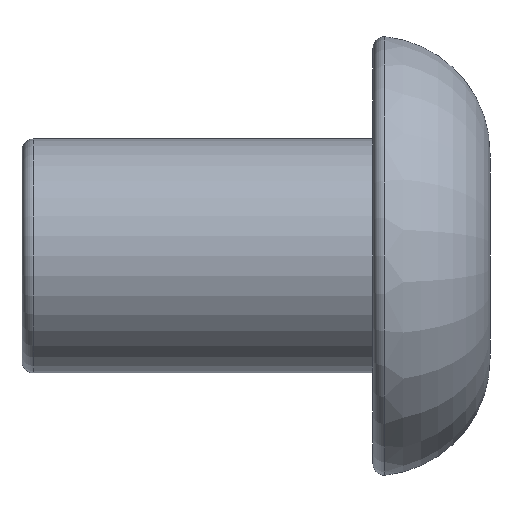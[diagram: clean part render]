
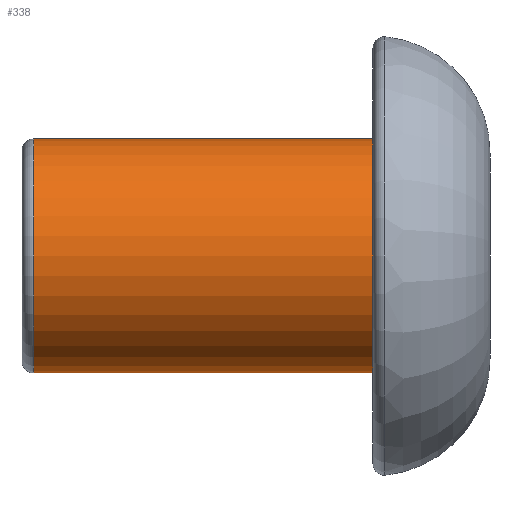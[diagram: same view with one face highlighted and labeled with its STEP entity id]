
A CAD part, left-side view. The second image highlights one B-rep face of the part: STEP entity #338.
In plain terms, the highlighted cylindrical face has radius 2 mm (diameter 4 mm), a partial arc.
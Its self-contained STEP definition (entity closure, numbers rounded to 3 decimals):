
#3 = AXIS2_PLACEMENT_3D ( 'NONE', #142, #5, #319 ) ;
#5 = DIRECTION ( 'NONE',  ( 0., 1., 0. ) ) ;
#45 = VERTEX_POINT ( 'NONE', #134 ) ;
#48 = EDGE_CURVE ( 'NONE', #96, #231, #352, .T. ) ;
#54 = CIRCLE ( 'NONE', #396, 2. ) ;
#57 = DIRECTION ( 'NONE',  ( 0., -1., 0. ) ) ;
#58 = CARTESIAN_POINT ( 'NONE',  ( 0., 8., 2. ) ) ;
#73 = CARTESIAN_POINT ( 'NONE',  ( 0., 7.8, 2. ) ) ;
#96 = VERTEX_POINT ( 'NONE', #73 ) ;
#97 = CARTESIAN_POINT ( 'NONE',  ( 0., 8., -2. ) ) ;
#106 = CARTESIAN_POINT ( 'NONE',  ( 0., 8., 0. ) ) ;
#122 = EDGE_CURVE ( 'NONE', #96, #45, #54, .T. ) ;
#134 = CARTESIAN_POINT ( 'NONE',  ( 0., 7.8, -2. ) ) ;
#142 = CARTESIAN_POINT ( 'NONE',  ( 0., 2., 0. ) ) ;
#179 = CARTESIAN_POINT ( 'NONE',  ( 0., 2., 2. ) ) ;
#186 = FACE_OUTER_BOUND ( 'NONE', #448, .T. ) ;
#187 = ORIENTED_EDGE ( 'NONE', *, *, #48, .F. ) ;
#223 = LINE ( 'NONE', #97, #421 ) ;
#224 = DIRECTION ( 'NONE',  ( 0., -1., 0. ) ) ;
#226 = DIRECTION ( 'NONE',  ( 0., -1., 0. ) ) ;
#231 = VERTEX_POINT ( 'NONE', #179 ) ;
#245 = ORIENTED_EDGE ( 'NONE', *, *, #122, .T. ) ;
#249 = CIRCLE ( 'NONE', #3, 2. ) ;
#271 = CARTESIAN_POINT ( 'NONE',  ( 0., 2., -2. ) ) ;
#280 = DIRECTION ( 'NONE',  ( 0., 0., -1. ) ) ;
#298 = VECTOR ( 'NONE', #226, 1000. ) ;
#301 = EDGE_CURVE ( 'NONE', #567, #231, #249, .T. ) ;
#305 = ORIENTED_EDGE ( 'NONE', *, *, #301, .T. ) ;
#319 = DIRECTION ( 'NONE',  ( 0., 0., 1. ) ) ;
#338 = ADVANCED_FACE ( 'NONE', ( #186 ), #496, .T. ) ;
#352 = LINE ( 'NONE', #58, #298 ) ;
#371 = AXIS2_PLACEMENT_3D ( 'NONE', #106, #224, #280 ) ;
#396 = AXIS2_PLACEMENT_3D ( 'NONE', #500, #541, #458 ) ;
#421 = VECTOR ( 'NONE', #57, 1000. ) ;
#448 = EDGE_LOOP ( 'NONE', ( #187, #245, #553, #305 ) ) ;
#458 = DIRECTION ( 'NONE',  ( 0., 0., 1. ) ) ;
#496 = CYLINDRICAL_SURFACE ( 'NONE', #371, 2. ) ;
#497 = EDGE_CURVE ( 'NONE', #45, #567, #223, .T. ) ;
#500 = CARTESIAN_POINT ( 'NONE',  ( 0., 7.8, 0. ) ) ;
#541 = DIRECTION ( 'NONE',  ( 0., -1., 0. ) ) ;
#553 = ORIENTED_EDGE ( 'NONE', *, *, #497, .T. ) ;
#567 = VERTEX_POINT ( 'NONE', #271 ) ;
